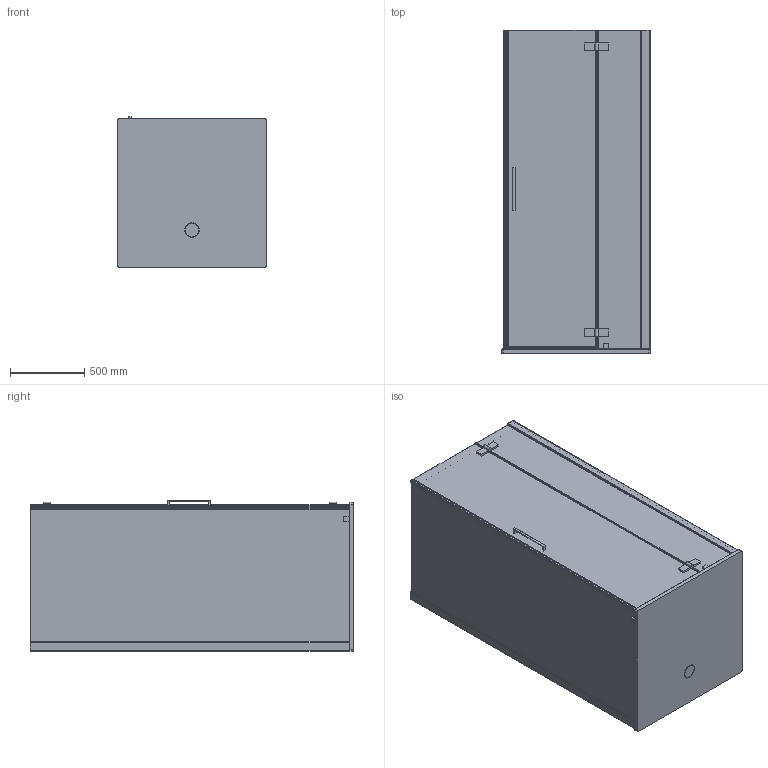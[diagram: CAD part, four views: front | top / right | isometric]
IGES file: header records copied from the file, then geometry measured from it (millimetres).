
Start section: SolidWorks IGES file using analytic representation for surfaces
Global section: file name: D:\Users\M.Szymanski\Desktop\Kabiny\SENSEPEREINCE\03. do przegrania\Senseperience_1000x1000_R_K3D.IGS; native system: SolidWorks 2011; preprocessor: SolidWorks 2011; author: M.Szymanski; date: 181217.152356; units: millimetre
Bounding box: 1000 x 2180 x 1014.55 mm (x, y, z)
Surface area: 24860781.9 mm2 (no closed solid volume)
Topology: 0 solids, 0 shells, 1406 faces, 10320 edges, 12851 vertices
Faces by surface type: bspline 915, revolution 491
